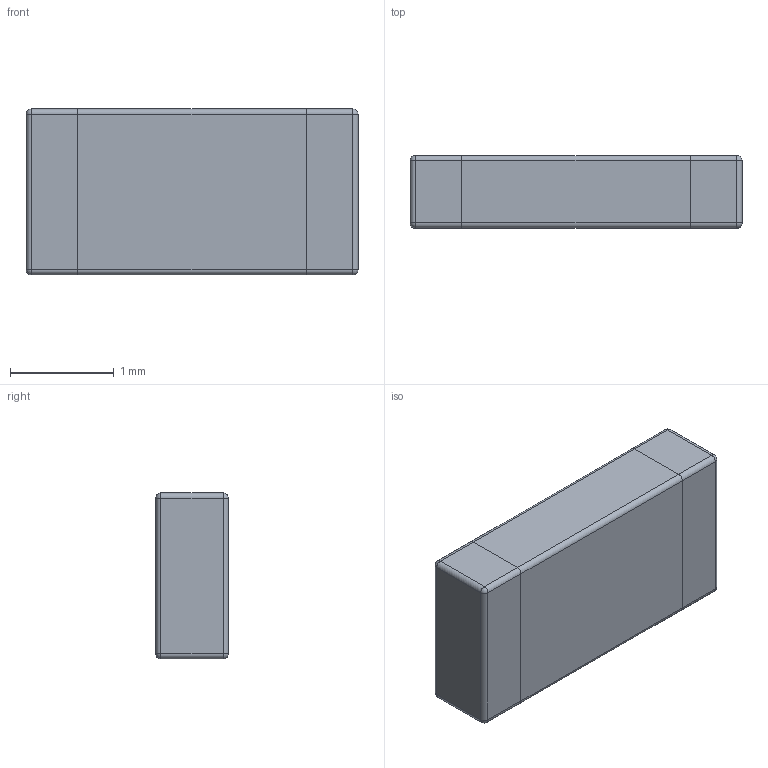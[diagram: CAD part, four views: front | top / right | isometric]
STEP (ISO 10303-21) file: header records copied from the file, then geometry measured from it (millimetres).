
FILE_DESCRIPTION (( 'STEP AP214' ), '1' );
FILE_NAME ( 'BEADC320X160X70L50.STEP', '2021-10-06T06:49:12', ( '' ), ( '' ), '', '©2017 PCB Libraries, Inc.', '' );
FILE_SCHEMA (( 'AUTOMOTIVE_DESIGN' ));
Length unit declared in the file: millimetre
Products named in the file (1): BEADC320X160X70L50
Bounding box: 3.2 x 0.7 x 1.6 mm (x, y, z)
Volume: 3.6 mm3; surface area: 21 mm2
Topology: 3 solids, 3 shells, 46 faces, 104 edges, 56 vertices
Faces by surface type: cylinder 20, plane 18, sphere 8
Entity records: 1394 total; most frequent: DIRECTION 230, CARTESIAN_POINT 199, ORIENTED_EDGE 192, EDGE_CURVE 96, AXIS2_PLACEMENT_3D 87, VERTEX_POINT 56, VECTOR 56, LINE 56
